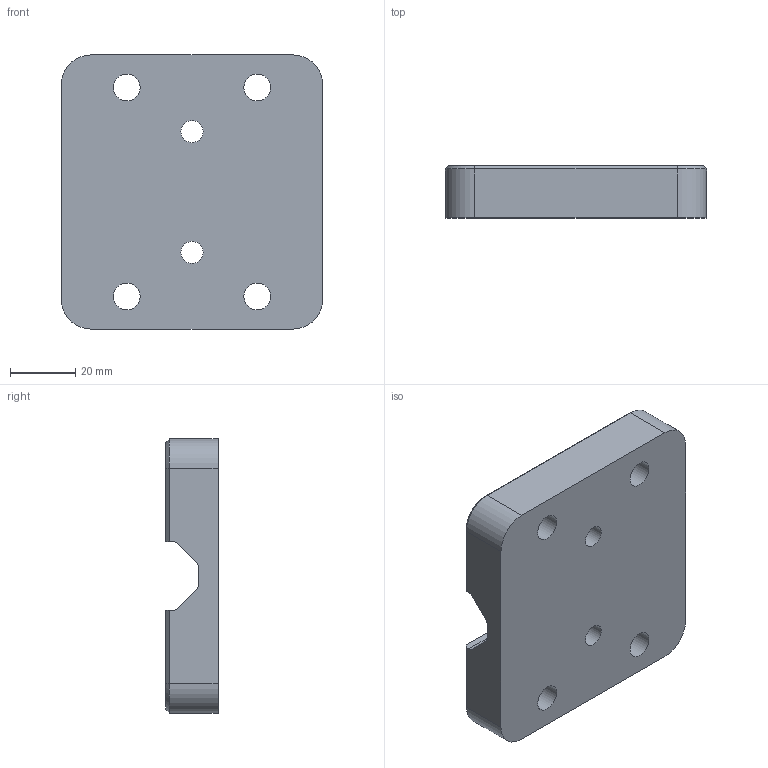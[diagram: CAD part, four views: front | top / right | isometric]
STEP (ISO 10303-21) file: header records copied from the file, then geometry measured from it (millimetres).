
FILE_DESCRIPTION(/* description */ (''),/* implementation_level */ '2;1');
FILE_NAME(/* name */ 'Base Plate.step',/* time_stamp */ '2025-12-04T11:44:55+01:00',/* author */ (''),/* organization */ (''),/* preprocessor_version */ 'ST-DEVELOPER v20.1',/* originating_system */ 'Autodesk Translation Framework v14.21.0.0',/* authorisation */ '');
FILE_SCHEMA (('AUTOMOTIVE_DESIGN { 1 0 10303 214 3 1 1 }'));
Length unit declared in the file: millimetre
Products named in the file (1): Base Plate
Bounding box: 80 x 16 x 84 mm (x, y, z)
Volume: 85028.1 mm3; surface area: 21137.3 mm2
Topology: 1 solids, 1 shells, 48 faces, 114 edges, 72 vertices
Faces by surface type: plane 22, cylinder 18, cone 8
Full cylindrical faces by diameter (mm): 6.779 x2, 8.2 x4, 14 x4
Entity records: 1450 total; most frequent: DIRECTION 256, CARTESIAN_POINT 235, ORIENTED_EDGE 228, EDGE_CURVE 114, AXIS2_PLACEMENT_3D 93, VERTEX_POINT 72, LINE 70, VECTOR 70
